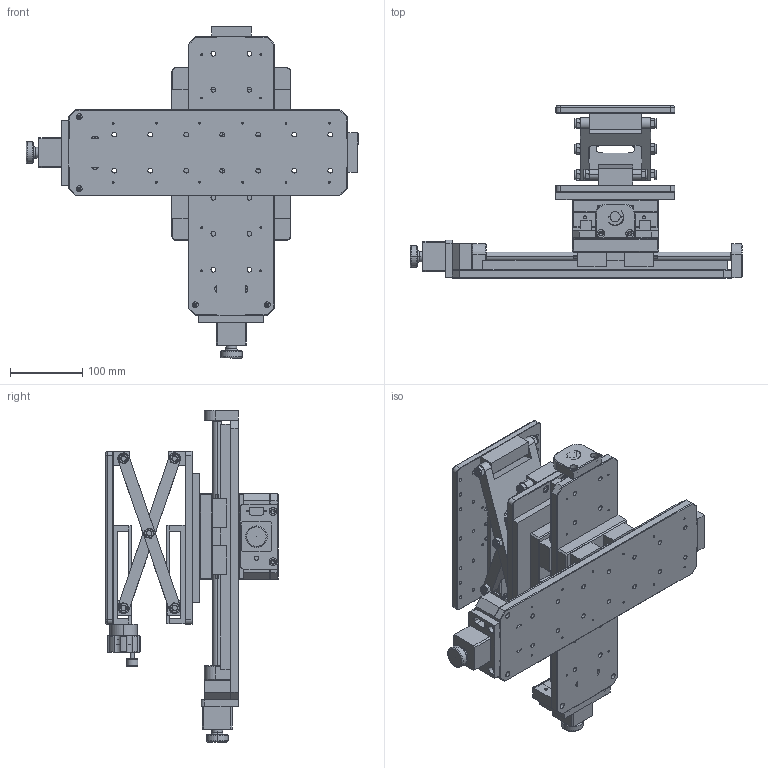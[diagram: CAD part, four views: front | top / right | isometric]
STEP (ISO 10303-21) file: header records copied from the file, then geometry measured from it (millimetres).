
FILE_DESCRIPTION (( 'STEP AP203' ), '1' );
FILE_NAME ('三轴组合台.STEP', '2022-04-14T09:28:13', ( 'SALES' ), ( 'Microsoft' ), 'SwSTEP 2.0', 'SolidWorks 2016', '' );
FILE_SCHEMA (( 'CONFIG_CONTROL_DESIGN' ));
Length unit declared in the file: millimetre
Products named in the file (4): 三轴组合台; PTGD140-200蚾饜极1; 蛌諉啣; PT-SD410
Assembly tree (4 placements, depth 2):
  三轴组合台
    PTGD140-200蚾饜极1  x2
    PT-SD410
    蛌諉啣
Bounding box: 461 x 239 x 461 mm (x, y, z)
Volume: 2820596.4 mm3; surface area: 910589.6 mm2
Topology: 3 solids, 82 shells, 2809 faces, 7408 edges, 4777 vertices
Faces by surface type: cylinder 1243, plane 1083, cone 389, bspline 94
Entity records: 73762 total; most frequent: CARTESIAN_POINT 27241, DIRECTION 9699, ORIENTED_EDGE 9089, EDGE_CURVE 4833, AXIS2_PLACEMENT_3D 3673, VERTEX_POINT 3246, EDGE_LOOP 2366, VECTOR 2353
